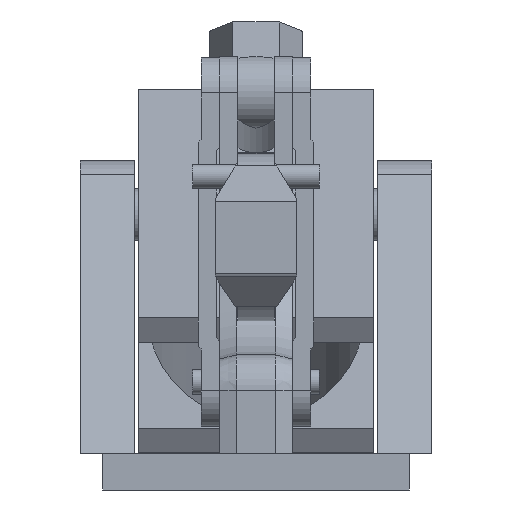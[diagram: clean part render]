
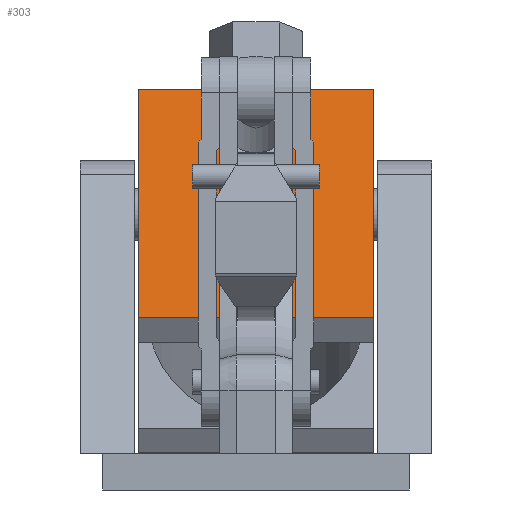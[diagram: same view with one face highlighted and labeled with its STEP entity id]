
A CAD part, left-side view. The second image highlights one B-rep face of the part: STEP entity #303.
In plain terms, the highlighted planar face has unit normal (-0.974, 0, 0.227).
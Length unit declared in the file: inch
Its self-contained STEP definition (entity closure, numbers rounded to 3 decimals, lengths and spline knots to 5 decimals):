
#303=ADVANCED_FACE('',(#759,#622),#484,.F.);
#484=PLANE('',#3761);
#622=FACE_BOUND('',#999,.T.);
#759=FACE_OUTER_BOUND('',#998,.T.);
#998=EDGE_LOOP('',(#1690,#1691,#1692,#1693));
#999=EDGE_LOOP('',(#1694));
#1228=CIRCLE('',#3760,0.14063);
#1690=ORIENTED_EDGE('',*,*,#2730,.F.);
#1691=ORIENTED_EDGE('',*,*,#2731,.F.);
#1692=ORIENTED_EDGE('',*,*,#2732,.F.);
#1693=ORIENTED_EDGE('',*,*,#2733,.F.);
#1694=ORIENTED_EDGE('',*,*,#2734,.F.);
#2355=VERTEX_POINT('',#5405);
#2356=VERTEX_POINT('',#5406);
#2357=VERTEX_POINT('',#5408);
#2358=VERTEX_POINT('',#5410);
#2359=VERTEX_POINT('',#5413);
#2730=EDGE_CURVE('',#2355,#2356,#3119,.T.);
#2731=EDGE_CURVE('',#2357,#2355,#3120,.T.);
#2732=EDGE_CURVE('',#2358,#2357,#3121,.T.);
#2733=EDGE_CURVE('',#2356,#2358,#3122,.T.);
#2734=EDGE_CURVE('',#2359,#2359,#1228,.T.);
#3119=LINE('',#5404,#3424);
#3120=LINE('',#5407,#3425);
#3121=LINE('',#5409,#3426);
#3122=LINE('',#5411,#3427);
#3424=VECTOR('',#4401,1.);
#3425=VECTOR('',#4402,1.);
#3426=VECTOR('',#4403,1.);
#3427=VECTOR('',#4404,1.);
#3760=AXIS2_PLACEMENT_3D('',#5412,#4405,#4406);
#3761=AXIS2_PLACEMENT_3D('',#5414,#4407,#4408);
#4401=DIRECTION('',(0.,-1.,0.));
#4402=DIRECTION('',(0.227,0.,0.974));
#4403=DIRECTION('',(0.,1.,0.));
#4404=DIRECTION('',(-0.227,0.,-0.974));
#4405=DIRECTION('',(-0.974,0.,0.227));
#4406=DIRECTION('',(0.,-1.,0.));
#4407=DIRECTION('',(0.974,0.,-0.227));
#4408=DIRECTION('',(0.,1.,0.));
#5404=CARTESIAN_POINT('',(3.72113,1.5625,2.77628));
#5405=CARTESIAN_POINT('',(3.72113,1.5625,2.77628));
#5406=CARTESIAN_POINT('',(3.72113,-0.0625,2.77628));
#5407=CARTESIAN_POINT('',(3.35275,1.5625,1.19359));
#5408=CARTESIAN_POINT('',(3.35275,1.5625,1.19359));
#5409=CARTESIAN_POINT('',(3.35275,-0.0625,1.19359));
#5410=CARTESIAN_POINT('',(3.35275,-0.0625,1.19359));
#5411=CARTESIAN_POINT('',(3.72113,-0.0625,2.77628));
#5412=CARTESIAN_POINT('',(3.53694,0.75,1.98494));
#5413=CARTESIAN_POINT('',(3.53694,0.60938,1.98494));
#5414=CARTESIAN_POINT('',(3.53694,0.75,1.98494));
